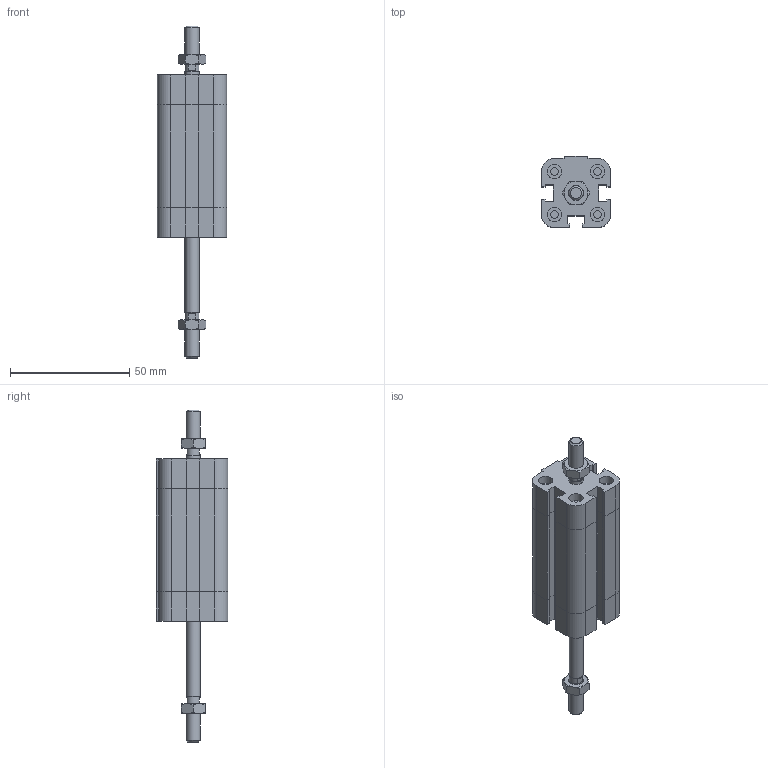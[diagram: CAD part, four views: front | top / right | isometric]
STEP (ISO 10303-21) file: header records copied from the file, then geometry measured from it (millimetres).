
FILE_DESCRIPTION((''),'2;1');
FILE_NAME('I:\Area Tecnica\Disegni\VARIE-3D\Componenti\EUROPE\15##_###_####_04_#\1581_12_0030_04_1.iam.stp','2009-04-20T14:49:16',(''),(''),'Autodesk Inventor 2009','Autodesk Inventor 2009','');
FILE_SCHEMA(('AUTOMOTIVE_DESIGN { 1 0 10303 214 1 1 1 1 }'));
Length unit declared in the file: millimetre
Products named in the file (4): 1581_12_0030_04_1; 1581_12_0030_03_1_C; 1561_12_0030_04_1_S; DBM6
Assembly tree (4 placements, depth 2):
  1581_12_0030_04_1
    1581_12_0030_03_1_C
    1561_12_0030_04_1_S
    DBM6  x2
Bounding box: 29 x 30 x 139 mm (x, y, z)
Volume: 50181.6 mm3; surface area: 17961.3 mm2
Topology: 4 solids, 4 shells, 224 faces, 491 edges, 293 vertices
Faces by surface type: plane 131, cone 35, bspline 33, cylinder 25
Full cylindrical faces by diameter (mm): 3.242 x4, 5 x1, 5.8 x2, 6 x6
Entity records: 5503 total; most frequent: CARTESIAN_POINT 1232, DIRECTION 814, ORIENTED_EDGE 784, EDGE_CURVE 392, AXIS2_PLACEMENT_3D 276, VECTOR 262, LINE 262, EDGE_LOOP 258
